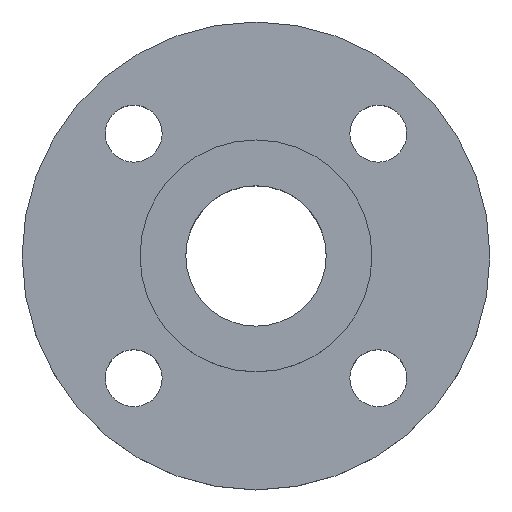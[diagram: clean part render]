
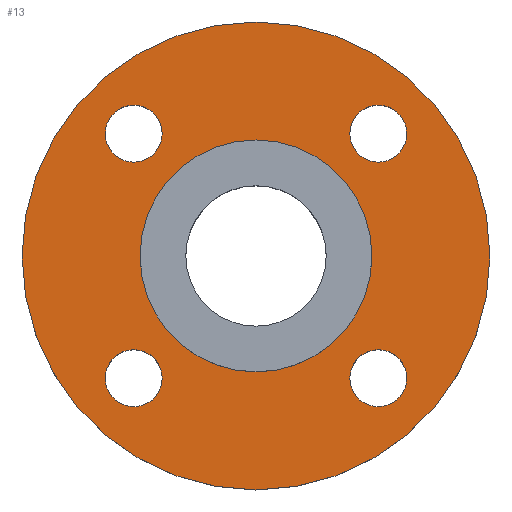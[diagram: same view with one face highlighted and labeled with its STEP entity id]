
A CAD part, top view. The second image highlights one B-rep face of the part: STEP entity #13.
In plain terms, the highlighted planar face has unit normal (0, 0, 1).
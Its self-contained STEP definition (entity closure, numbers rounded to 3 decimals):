
#9 = CARTESIAN_POINT ( 'NONE',  ( 0., 0., -4.5 ) ) ;
#13 = ADVANCED_FACE ( 'NONE', ( #596, #597, #598, #599, #600, #601 ), #603, .T. ) ;
#15 = CIRCLE ( 'NONE', #202, 7. ) ;
#16 = AXIS2_PLACEMENT_3D ( 'NONE', #324, #326, #327 ) ;
#17 = CIRCLE ( 'NONE', #18, 7. ) ;
#18 = AXIS2_PLACEMENT_3D ( 'NONE', #328, #330, #331 ) ;
#19 = AXIS2_PLACEMENT_3D ( 'NONE', #117, #118, #116 ) ;
#23 = AXIS2_PLACEMENT_3D ( 'NONE', #152, #148, #138 ) ;
#24 = DIRECTION ( 'NONE',  ( 1., 0., 0. ) ) ;
#27 = CIRCLE ( 'NONE', #30, 57.5 ) ;
#30 = AXIS2_PLACEMENT_3D ( 'NONE', #9, #213, #417 ) ;
#38 = CIRCLE ( 'NONE', #43, 57.5 ) ;
#43 = AXIS2_PLACEMENT_3D ( 'NONE', #99, #97, #96 ) ;
#46 = EDGE_CURVE ( 'NONE', #423, #415, #193, .T. ) ;
#79 = CARTESIAN_POINT ( 'NONE',  ( -23.052, -30.052, -4.5 ) ) ;
#80 = CARTESIAN_POINT ( 'NONE',  ( -57.5, 0., -4.5 ) ) ;
#82 = CARTESIAN_POINT ( 'NONE',  ( 57.5, 0., -4.5 ) ) ;
#96 = DIRECTION ( 'NONE',  ( -1., 0., 0. ) ) ;
#97 = DIRECTION ( 'NONE',  ( 0., 0., -1. ) ) ;
#99 = CARTESIAN_POINT ( 'NONE',  ( 0., 0., -4.5 ) ) ;
#104 = CARTESIAN_POINT ( 'NONE',  ( 37.052, -30.052, -4.5 ) ) ;
#114 = AXIS2_PLACEMENT_3D ( 'NONE', #157, #189, #24 ) ;
#116 = DIRECTION ( 'NONE',  ( 1., 0., 0. ) ) ;
#117 = CARTESIAN_POINT ( 'NONE',  ( 30.052, -30.052, -4.5 ) ) ;
#118 = DIRECTION ( 'NONE',  ( 0., 0., -1. ) ) ;
#123 = EDGE_CURVE ( 'NONE', #408, #595, #198, .T. ) ;
#127 = VERTEX_POINT ( 'NONE', #655 ) ;
#138 = DIRECTION ( 'NONE',  ( -1., 0., 0. ) ) ;
#139 = CARTESIAN_POINT ( 'NONE',  ( 23.052, -30.052, -4.5 ) ) ;
#148 = DIRECTION ( 'NONE',  ( 0., 0., -1. ) ) ;
#152 = CARTESIAN_POINT ( 'NONE',  ( 0., 0., -4.5 ) ) ;
#155 = CARTESIAN_POINT ( 'NONE',  ( 28.5, 0., -4.5 ) ) ;
#157 = CARTESIAN_POINT ( 'NONE',  ( -30.052, 30.052, -4.5 ) ) ;
#161 = CIRCLE ( 'NONE', #114, 7. ) ;
#162 = CARTESIAN_POINT ( 'NONE',  ( -37.052, -30.052, -4.5 ) ) ;
#164 = AXIS2_PLACEMENT_3D ( 'NONE', #679, #680, #681 ) ;
#174 = CARTESIAN_POINT ( 'NONE',  ( 37.052, 30.052, -4.5 ) ) ;
#187 = EDGE_CURVE ( 'NONE', #413, #426, #377, .T. ) ;
#188 = CARTESIAN_POINT ( 'NONE',  ( -28.5, 0., -4.5 ) ) ;
#189 = DIRECTION ( 'NONE',  ( 0., 0., -1. ) ) ;
#191 = CIRCLE ( 'NONE', #16, 7. ) ;
#193 = CIRCLE ( 'NONE', #206, 7. ) ;
#198 = CIRCLE ( 'NONE', #301, 7. ) ;
#202 = AXIS2_PLACEMENT_3D ( 'NONE', #306, #308, #310 ) ;
#206 = AXIS2_PLACEMENT_3D ( 'NONE', #616, #617, #618 ) ;
#212 = DIRECTION ( 'NONE',  ( 1., 0., 0. ) ) ;
#213 = DIRECTION ( 'NONE',  ( 0., 0., -1. ) ) ;
#234 = CIRCLE ( 'NONE', #23, 28.5 ) ;
#280 = CIRCLE ( 'NONE', #19, 7. ) ;
#301 = AXIS2_PLACEMENT_3D ( 'NONE', #639, #653, #654 ) ;
#303 = AXIS2_PLACEMENT_3D ( 'NONE', #721, #722, #212 ) ;
#306 = CARTESIAN_POINT ( 'NONE',  ( 30.052, 30.052, -4.5 ) ) ;
#308 = DIRECTION ( 'NONE',  ( 0., 0., -1. ) ) ;
#310 = DIRECTION ( 'NONE',  ( 1., 0., 0. ) ) ;
#314 = CIRCLE ( 'NONE', #303, 7. ) ;
#320 = EDGE_CURVE ( 'NONE', #553, #411, #314, .T. ) ;
#324 = CARTESIAN_POINT ( 'NONE',  ( -30.052, 30.052, -4.5 ) ) ;
#326 = DIRECTION ( 'NONE',  ( 0., 0., -1. ) ) ;
#327 = DIRECTION ( 'NONE',  ( 1., 0., 0. ) ) ;
#328 = CARTESIAN_POINT ( 'NONE',  ( -30.052, -30.052, -4.5 ) ) ;
#330 = DIRECTION ( 'NONE',  ( 0., 0., -1. ) ) ;
#331 = DIRECTION ( 'NONE',  ( 1., 0., 0. ) ) ;
#350 = AXIS2_PLACEMENT_3D ( 'NONE', #604, #605, #606 ) ;
#352 = CARTESIAN_POINT ( 'NONE',  ( 23.052, 30.052, -4.5 ) ) ;
#373 = CARTESIAN_POINT ( 'NONE',  ( -37.052, 30.052, -4.5 ) ) ;
#377 = CIRCLE ( 'NONE', #164, 28.5 ) ;
#393 = EDGE_CURVE ( 'NONE', #415, #423, #15, .T. ) ;
#395 = EDGE_CURVE ( 'NONE', #450, #127, #191, .T. ) ;
#396 = EDGE_CURVE ( 'NONE', #595, #408, #17, .T. ) ;
#401 = EDGE_CURVE ( 'NONE', #411, #553, #280, .T. ) ;
#408 = VERTEX_POINT ( 'NONE', #162 ) ;
#411 = VERTEX_POINT ( 'NONE', #139 ) ;
#413 = VERTEX_POINT ( 'NONE', #188 ) ;
#415 = VERTEX_POINT ( 'NONE', #174 ) ;
#417 = DIRECTION ( 'NONE',  ( -1., 0., 0. ) ) ;
#421 = ORIENTED_EDGE ( 'NONE', *, *, #393, .T. ) ;
#422 = EDGE_CURVE ( 'NONE', #127, #450, #161, .T. ) ;
#423 = VERTEX_POINT ( 'NONE', #352 ) ;
#426 = VERTEX_POINT ( 'NONE', #155 ) ;
#428 = EDGE_CURVE ( 'NONE', #426, #413, #234, .T. ) ;
#433 = EDGE_LOOP ( 'NONE', ( #421, #510 ) ) ;
#439 = EDGE_LOOP ( 'NONE', ( #511, #512 ) ) ;
#449 = EDGE_LOOP ( 'NONE', ( #509, #594 ) ) ;
#450 = VERTEX_POINT ( 'NONE', #373 ) ;
#493 = EDGE_CURVE ( 'NONE', #593, #591, #27, .T. ) ;
#504 = ORIENTED_EDGE ( 'NONE', *, *, #320, .T. ) ;
#505 = ORIENTED_EDGE ( 'NONE', *, *, #401, .T. ) ;
#507 = ORIENTED_EDGE ( 'NONE', *, *, #396, .T. ) ;
#508 = ORIENTED_EDGE ( 'NONE', *, *, #123, .T. ) ;
#509 = ORIENTED_EDGE ( 'NONE', *, *, #422, .T. ) ;
#510 = ORIENTED_EDGE ( 'NONE', *, *, #46, .T. ) ;
#511 = ORIENTED_EDGE ( 'NONE', *, *, #187, .T. ) ;
#512 = ORIENTED_EDGE ( 'NONE', *, *, #428, .T. ) ;
#514 = ORIENTED_EDGE ( 'NONE', *, *, #583, .F. ) ;
#516 = ORIENTED_EDGE ( 'NONE', *, *, #493, .F. ) ;
#550 = EDGE_LOOP ( 'NONE', ( #507, #508 ) ) ;
#553 = VERTEX_POINT ( 'NONE', #104 ) ;
#565 = EDGE_LOOP ( 'NONE', ( #514, #516 ) ) ;
#567 = EDGE_LOOP ( 'NONE', ( #504, #505 ) ) ;
#583 = EDGE_CURVE ( 'NONE', #591, #593, #38, .T. ) ;
#591 = VERTEX_POINT ( 'NONE', #82 ) ;
#593 = VERTEX_POINT ( 'NONE', #80 ) ;
#594 = ORIENTED_EDGE ( 'NONE', *, *, #395, .T. ) ;
#595 = VERTEX_POINT ( 'NONE', #79 ) ;
#596 = FACE_BOUND ( 'NONE', #567, .T. ) ;
#597 = FACE_BOUND ( 'NONE', #550, .T. ) ;
#598 = FACE_BOUND ( 'NONE', #449, .T. ) ;
#599 = FACE_BOUND ( 'NONE', #433, .T. ) ;
#600 = FACE_BOUND ( 'NONE', #439, .T. ) ;
#601 = FACE_OUTER_BOUND ( 'NONE', #565, .T. ) ;
#603 = PLANE ( 'NONE',  #350 ) ;
#604 = CARTESIAN_POINT ( 'NONE',  ( 28.5, 0., -4.5 ) ) ;
#605 = DIRECTION ( 'NONE',  ( 0., 0., 1. ) ) ;
#606 = DIRECTION ( 'NONE',  ( 1., 0., 0. ) ) ;
#616 = CARTESIAN_POINT ( 'NONE',  ( 30.052, 30.052, -4.5 ) ) ;
#617 = DIRECTION ( 'NONE',  ( 0., 0., -1. ) ) ;
#618 = DIRECTION ( 'NONE',  ( 1., 0., 0. ) ) ;
#639 = CARTESIAN_POINT ( 'NONE',  ( -30.052, -30.052, -4.5 ) ) ;
#653 = DIRECTION ( 'NONE',  ( 0., 0., -1. ) ) ;
#654 = DIRECTION ( 'NONE',  ( 1., 0., 0. ) ) ;
#655 = CARTESIAN_POINT ( 'NONE',  ( -23.052, 30.052, -4.5 ) ) ;
#679 = CARTESIAN_POINT ( 'NONE',  ( 0., 0., -4.5 ) ) ;
#680 = DIRECTION ( 'NONE',  ( 0., 0., -1. ) ) ;
#681 = DIRECTION ( 'NONE',  ( -1., 0., 0. ) ) ;
#721 = CARTESIAN_POINT ( 'NONE',  ( 30.052, -30.052, -4.5 ) ) ;
#722 = DIRECTION ( 'NONE',  ( 0., 0., -1. ) ) ;
